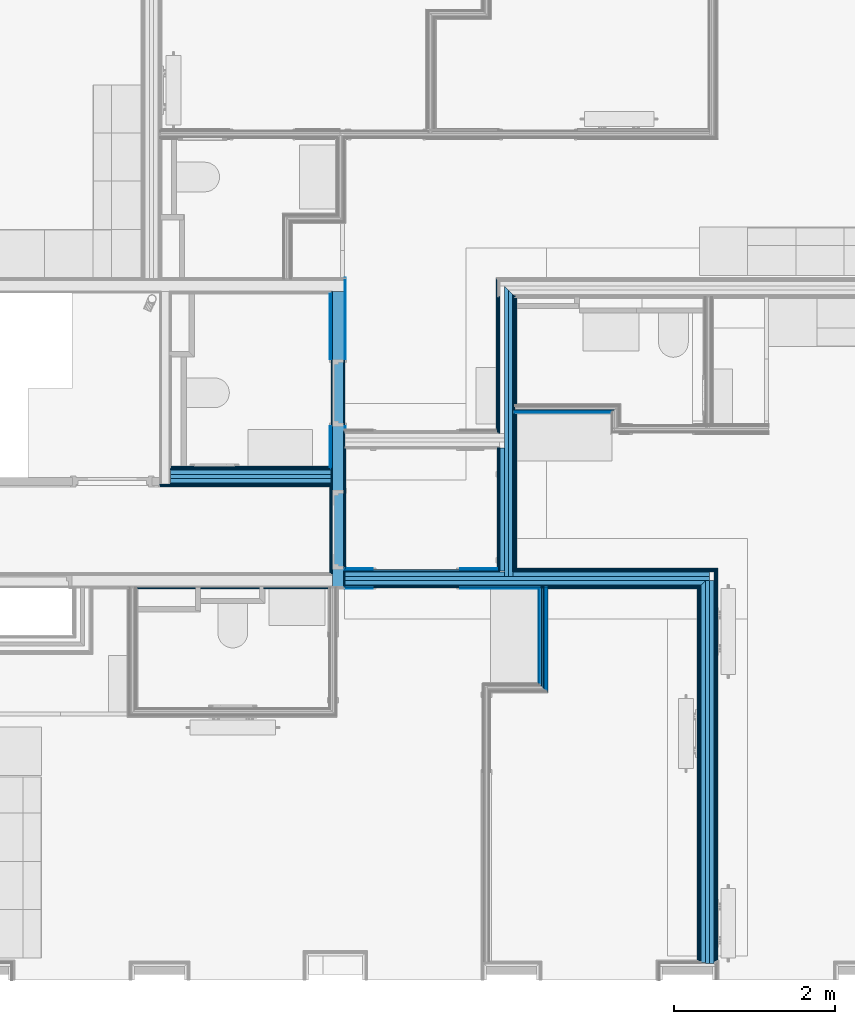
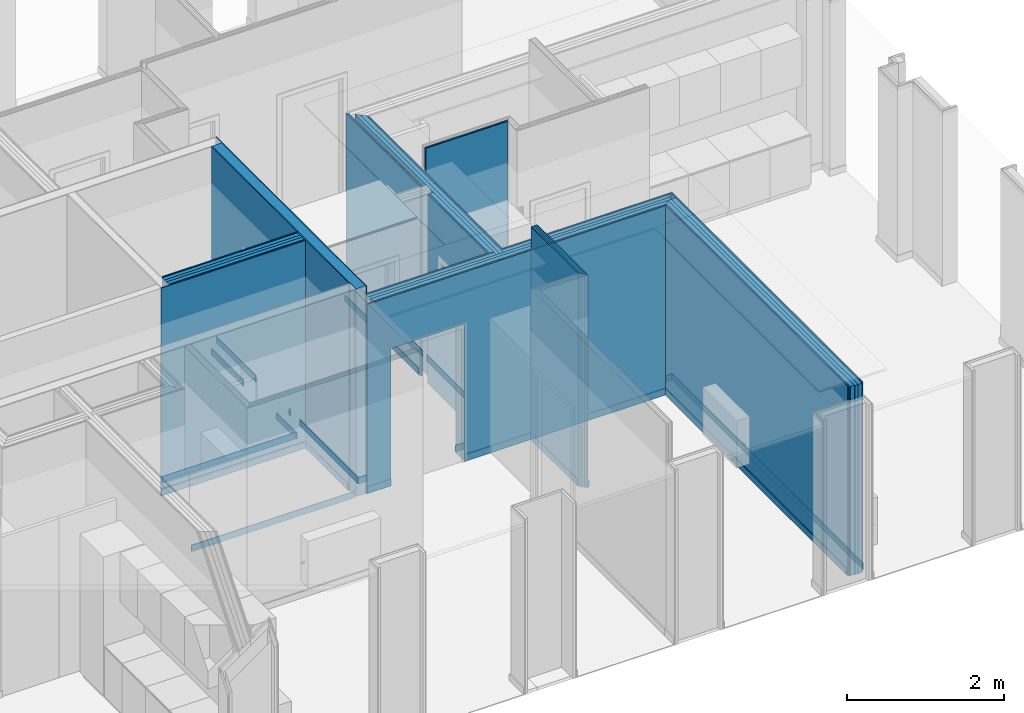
# One storey, part 20 of 64: 65 building element parts, 3 openings, 8 elements without a shape of their own.
"""IFC2X3 building model written with IfcOpenShell, lengths in metres."""

from ifc_helpers import new_model, entity, si_unit, converted_unit, derived_unit, money_unit, direction, frame, frame_2d, origin_with_axes, place, context, subcontext, project, spatial, polyline, rectangle, outline, extrude, material, type_object, element, aggregate, save


model = new_model("IFC2X3")

# Units and contexts
model_context = context("Model", 3, precision=1e-05, world=origin_with_axes(), true_north=direction((0.0, 1.0)))
body_context = subcontext(model_context, "Body", "Model", "MODEL_VIEW", scale=1.0)
ifc_project = project(units=[si_unit("LENGTHUNIT", "METRE"), si_unit("AREAUNIT", "SQUARE_METRE"), si_unit("VOLUMEUNIT", "CUBIC_METRE"), si_unit("ABSORBEDDOSEUNIT", "GRAY"), si_unit("AMOUNTOFSUBSTANCEUNIT", "MOLE"), si_unit("DOSEEQUIVALENTUNIT", "SIEVERT"), si_unit("ELECTRICCAPACITANCEUNIT", "FARAD"), si_unit("ELECTRICCHARGEUNIT", "COULOMB"), si_unit("ELECTRICCONDUCTANCEUNIT", "SIEMENS"), si_unit("ELECTRICCURRENTUNIT", "AMPERE"), si_unit("ELECTRICRESISTANCEUNIT", "OHM"), si_unit("ELECTRICVOLTAGEUNIT", "VOLT"), si_unit("ENERGYUNIT", "JOULE"), si_unit("FORCEUNIT", "NEWTON"), si_unit("FREQUENCYUNIT", "HERTZ"), si_unit("ILLUMINANCEUNIT", "LUX"), si_unit("INDUCTANCEUNIT", "HENRY"), si_unit("LUMINOUSFLUXUNIT", "LUMEN"), si_unit("LUMINOUSINTENSITYUNIT", "CANDELA"), si_unit("MAGNETICFLUXDENSITYUNIT", "TESLA"), si_unit("MAGNETICFLUXUNIT", "WEBER"), si_unit("MASSUNIT", "GRAM"), converted_unit("PLANEANGLEUNIT", "degree", entity("IfcReal", 0.0174532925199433), si_unit("PLANEANGLEUNIT", "RADIAN"), dimensions=[0, 0, 0, 0, 0, 0, 0]), si_unit("POWERUNIT", "WATT"), si_unit("PRESSUREUNIT", "PASCAL"), si_unit("RADIOACTIVITYUNIT", "BECQUEREL"), si_unit("SOLIDANGLEUNIT", "STERADIAN"), si_unit("THERMODYNAMICTEMPERATUREUNIT", "KELVIN"), si_unit("TIMEUNIT", "SECOND"), derived_unit("ACCELERATIONUNIT", [(si_unit("LENGTHUNIT", "METRE"), 1), (si_unit("TIMEUNIT", "SECOND"), -2)]), derived_unit("ANGULARVELOCITYUNIT", [(converted_unit("PLANEANGLEUNIT", "degree", entity("IfcReal", 0.0174532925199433), si_unit("PLANEANGLEUNIT", "RADIAN"), dimensions=[0, 0, 0, 0, 0, 0, 0]), 1), (si_unit("TIMEUNIT", "SECOND"), -1)]), derived_unit("CURVATUREUNIT", [(converted_unit("PLANEANGLEUNIT", "degree", entity("IfcReal", 0.0174532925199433), si_unit("PLANEANGLEUNIT", "RADIAN"), dimensions=[0, 0, 0, 0, 0, 0, 0]), 1), (si_unit("LENGTHUNIT", "METRE"), -1)]), derived_unit("DYNAMICVISCOSITYUNIT", [(si_unit("PRESSUREUNIT", "PASCAL"), 1), (si_unit("TIMEUNIT", "SECOND"), 1)]), derived_unit("HEATFLUXDENSITYUNIT", [(si_unit("POWERUNIT", "WATT"), 1), (si_unit("LENGTHUNIT", "METRE"), -2)]), derived_unit("HEATINGVALUEUNIT", [(si_unit("ENERGYUNIT", "JOULE"), 1), (si_unit("MASSUNIT", "GRAM"), -1)]), derived_unit("INTEGERCOUNTRATEUNIT", [(si_unit("TIMEUNIT", "SECOND"), -1)]), derived_unit("IONCONCENTRATIONUNIT", [(si_unit("MASSUNIT", "GRAM"), 1), (si_unit("VOLUMEUNIT", "CUBIC_METRE"), -1)]), derived_unit("ISOTHERMALMOISTURECAPACITYUNIT", [(si_unit("VOLUMEUNIT", "CUBIC_METRE"), 1), (si_unit("MASSUNIT", "GRAM"), -1)]), derived_unit("KINEMATICVISCOSITYUNIT", [(si_unit("AREAUNIT", "SQUARE_METRE"), 1), (si_unit("TIMEUNIT", "SECOND"), -1)]), derived_unit("LINEARFORCEUNIT", [(si_unit("FORCEUNIT", "NEWTON"), 1), (si_unit("LENGTHUNIT", "METRE"), -1)]), derived_unit("LINEARMOMENTUNIT", [(si_unit("FORCEUNIT", "NEWTON"), 1), (si_unit("LENGTHUNIT", "METRE"), -1)]), derived_unit("LINEARSTIFFNESSUNIT", [(si_unit("FORCEUNIT", "NEWTON"), 1), (si_unit("LENGTHUNIT", "METRE"), -1)]), derived_unit("LINEARVELOCITYUNIT", [(si_unit("LENGTHUNIT", "METRE"), 1), (si_unit("TIMEUNIT", "SECOND"), -1)]), derived_unit("LUMINOUSINTENSITYDISTRIBUTIONUNIT", [(si_unit("LUMINOUSINTENSITYUNIT", "CANDELA"), 1), (si_unit("LUMINOUSFLUXUNIT", "LUMEN"), -1)]), derived_unit("MASSDENSITYUNIT", [(si_unit("MASSUNIT", "GRAM"), 1), (si_unit("VOLUMEUNIT", "CUBIC_METRE"), -1)]), derived_unit("MASSFLOWRATEUNIT", [(si_unit("MASSUNIT", "GRAM"), 1), (si_unit("TIMEUNIT", "SECOND"), -1)]), derived_unit("MASSPERLENGTHUNIT", [(si_unit("MASSUNIT", "GRAM"), 1), (si_unit("LENGTHUNIT", "METRE"), -1)]), derived_unit("MODULUSOFELASTICITYUNIT", [(si_unit("FORCEUNIT", "NEWTON"), 1), (si_unit("AREAUNIT", "SQUARE_METRE"), -1)]), derived_unit("MODULUSOFLINEARSUBGRADEREACTIONUNIT", [(si_unit("FORCEUNIT", "NEWTON"), 1), (si_unit("LENGTHUNIT", "METRE"), -2)]), derived_unit("MODULUSOFROTATIONALSUBGRADEREACTIONUNIT", [(si_unit("FORCEUNIT", "NEWTON"), 1), (si_unit("LENGTHUNIT", "METRE"), 1)]), derived_unit("MODULUSOFSUBGRADEREACTIONUNIT", [(si_unit("FORCEUNIT", "NEWTON"), 1), (si_unit("VOLUMEUNIT", "CUBIC_METRE"), -1)]), derived_unit("MOISTUREDIFFUSIVITYUNIT", [(si_unit("VOLUMEUNIT", "CUBIC_METRE"), 1), (si_unit("TIMEUNIT", "SECOND"), -1)]), derived_unit("MOLECULARWEIGHTUNIT", [(si_unit("MASSUNIT", "GRAM"), 1), (si_unit("AMOUNTOFSUBSTANCEUNIT", "MOLE"), -1)]), derived_unit("PLANARFORCEUNIT", [(si_unit("FORCEUNIT", "NEWTON"), 1), (si_unit("LENGTHUNIT", "METRE"), -2)]), derived_unit("ROTATIONALFREQUENCYUNIT", [(si_unit("TIMEUNIT", "SECOND"), -1)]), derived_unit("ROTATIONALMASSUNIT", [(si_unit("MASSUNIT", "GRAM"), 1), (si_unit("LENGTHUNIT", "METRE"), 2)]), derived_unit("ROTATIONALSTIFFNESSUNIT", [(si_unit("FORCEUNIT", "NEWTON"), 1), (si_unit("LENGTHUNIT", "METRE"), 1), (converted_unit("PLANEANGLEUNIT", "degree", entity("IfcReal", 0.0174532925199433), si_unit("PLANEANGLEUNIT", "RADIAN"), dimensions=[0, 0, 0, 0, 0, 0, 0]), -1)]), derived_unit("SECTIONAREAINTEGRALUNIT", [(si_unit("LENGTHUNIT", "METRE"), 5)]), derived_unit("SECTIONMODULUSUNIT", [(si_unit("LENGTHUNIT", "METRE"), 3)]), derived_unit("SHEARMODULUSUNIT", [(si_unit("FORCEUNIT", "NEWTON"), 1), (si_unit("AREAUNIT", "SQUARE_METRE"), -1)]), derived_unit("SOUNDPOWERUNIT", [(si_unit("ENERGYUNIT", "JOULE"), 1), (si_unit("TIMEUNIT", "SECOND"), -1)]), derived_unit("SPECIFICHEATCAPACITYUNIT", [(si_unit("FORCEUNIT", "NEWTON"), 1), (si_unit("MASSUNIT", "GRAM"), -1), (si_unit("THERMODYNAMICTEMPERATUREUNIT", "KELVIN"), -1)]), derived_unit("TEMPERATUREGRADIENTUNIT", [(si_unit("THERMODYNAMICTEMPERATUREUNIT", "KELVIN"), 1), (si_unit("LENGTHUNIT", "METRE"), -1)]), derived_unit("THERMALADMITTANCEUNIT", [(si_unit("POWERUNIT", "WATT"), 1), (si_unit("AREAUNIT", "SQUARE_METRE"), -1), (si_unit("THERMODYNAMICTEMPERATUREUNIT", "KELVIN"), -1)]), derived_unit("THERMALCONDUCTANCEUNIT", [(si_unit("POWERUNIT", "WATT"), 1), (si_unit("LENGTHUNIT", "METRE"), -1), (si_unit("THERMODYNAMICTEMPERATUREUNIT", "KELVIN"), -1)]), derived_unit("THERMALEXPANSIONCOEFFICIENTUNIT", [(si_unit("THERMODYNAMICTEMPERATUREUNIT", "KELVIN"), -1)]), derived_unit("THERMALRESISTANCEUNIT", [(si_unit("AREAUNIT", "SQUARE_METRE"), 1), (si_unit("POWERUNIT", "WATT"), -1)]), derived_unit("THERMALTRANSMITTANCEUNIT", [(si_unit("POWERUNIT", "WATT"), 1), (si_unit("AREAUNIT", "SQUARE_METRE"), -1), (si_unit("THERMODYNAMICTEMPERATUREUNIT", "KELVIN"), -1)]), derived_unit("TORQUEUNIT", [(si_unit("FORCEUNIT", "NEWTON"), 1), (si_unit("LENGTHUNIT", "METRE"), 1)]), derived_unit("VAPORPERMEABILITYUNIT", [(si_unit("MASSUNIT", "GRAM"), 1), (si_unit("TIMEUNIT", "SECOND"), -1)]), derived_unit("VOLUMETRICFLOWRATEUNIT", [(si_unit("VOLUMEUNIT", "CUBIC_METRE"), 1), (si_unit("TIMEUNIT", "SECOND"), -1)]), derived_unit("WARPINGCONSTANTUNIT", [(si_unit("LENGTHUNIT", "METRE"), 6)]), derived_unit("WARPINGMOMENTUNIT", [(si_unit("FORCEUNIT", "NEWTON"), 1), (si_unit("LENGTHUNIT", "METRE"), 2)]), money_unit("GBP")], contexts=[model_context])

# Site, building, storey
site_placement = place(None, origin_with_axes())
site = spatial("IfcSite", under=ifc_project, at=site_placement, Name="Site", CompositionType="ELEMENT")
building_placement = place(site_placement, origin_with_axes())
building = spatial("IfcBuilding", under=site, at=building_placement, Name="Building01", CompositionType="ELEMENT")
storey_placement = place(building_placement, frame((0.0, 0.0, 8.64), z_axis=(0.0, 0.0, 1.0), x_axis=(1.0, 0.0, 0.0)))
storey = spatial("IfcBuildingStorey", under=building, at=storey_placement, Name="2F", CompositionType="ELEMENT", Elevation=8.64)

# Wall, building element parts
wall_type_1 = type_object("IfcWallType", Name="SHE_A-Walls_Type01c_Partywall_225mm_twin_tall", PredefinedType="NOTDEFINED")
wall_1_placement = place(storey_placement, frame((22.488, 5.068, 0.0), z_axis=(0.0, 0.0, 1.0), x_axis=(0.0, -1.0, 0.0)))
wall_1 = element("IfcWall", 1, at=wall_1_placement, inside=storey, type_object=wall_type_1, Name="1C", ObjectType="SHE_A-Walls_Type01c_Partywall_225mm_twin_tall")
ifc_material_1 = material(Name="A_BSUK_Walls_Timber")
placement_1 = place(wall_1_placement, origin_with_axes())
building_element_part_1 = element("IfcBuildingElementPart", 2, at=placement_1, material=ifc_material_1, Name="1", context=body_context, shape_type="SweptSolid", body=[
    extrude(outline(polyline([(4.72, -0.088), (0.088, -0.088), (0.103, -0.103), (4.72, -0.103), (4.72, -0.088)])), frame((0.0, 0.0, 0.015), z_axis=(0.0, 0.0, 1.0), x_axis=(1.0, 0.0, 0.0)), (0.0, 0.0, 1.0), 0.1),
])
ifc_material_2 = material(Name="A_BSUK_WallInternal_Finishes_Plasterboard")
building_element_part_2 = element("IfcBuildingElementPart", 3, at=placement_1, material=ifc_material_2, Name="2", context=body_context, shape_type="SweptSolid", body=[
    extrude(outline(polyline([(4.735, -0.073), (0.073, -0.073), (0.088, -0.088), (4.735, -0.088), (4.735, -0.073)])), origin_with_axes(), (0.0, 0.0, 1.0), 2.95),
])
building_element_part_3 = element("IfcBuildingElementPart", 4, at=placement_1, material=ifc_material_2, Name="3", context=body_context, shape_type="SweptSolid", body=[
    extrude(outline(polyline([(4.75, -0.058), (0.058, -0.058), (0.073, -0.073), (4.75, -0.073), (4.75, -0.058)])), origin_with_axes(), (0.0, 0.0, 1.0), 2.95),
])
ifc_material_3 = material(Name="Air Cavity")
building_element_part_4 = element("IfcBuildingElementPart", 5, at=placement_1, material=ifc_material_3, Name="4", context=body_context, shape_type="SweptSolid", body=[
    extrude(outline(polyline([(4.75, 0.0), (0.0, 0.0), (0.058, -0.058), (4.75, -0.058), (4.75, 0.0)])), origin_with_axes(), (0.0, 0.0, 1.0), 2.95),
])
ifc_material_4 = material(Name="A_BSUK_Insulation")
building_element_part_5 = element("IfcBuildingElementPart", 6, at=placement_1, material=ifc_material_4, Name="5", context=body_context, shape_type="SweptSolid", body=[
    extrude(rectangle(XDim=4.762, YDim=0.05, at=frame_2d((2.381, 0.025), x_axis=(-1.0, 0.0))), origin_with_axes(), (0.0, 0.0, 1.0), 2.95),
])
building_element_part_6 = element("IfcBuildingElementPart", 7, at=placement_1, material=ifc_material_3, Name="6", context=body_context, shape_type="SweptSolid", body=[
    extrude(rectangle(XDim=4.762, YDim=0.057, at=frame_2d((2.381, 0.0785), x_axis=(-1.0, 0.0))), origin_with_axes(), (0.0, 0.0, 1.0), 2.95),
])
building_element_part_7 = element("IfcBuildingElementPart", 8, at=placement_1, material=ifc_material_2, Name="7", context=body_context, shape_type="SweptSolid", body=[
    extrude(outline(polyline([(4.75, 0.122), (-0.122, 0.122), (-0.107, 0.107), (4.75, 0.107), (4.75, 0.122)])), origin_with_axes(), (0.0, 0.0, 1.0), 2.95),
])
building_element_part_8 = element("IfcBuildingElementPart", 9, at=placement_1, material=ifc_material_2, Name="8", context=body_context, shape_type="SweptSolid", body=[
    extrude(outline(polyline([(-0.137, 0.137), (-0.122, 0.122), (4.735, 0.122), (4.735, 0.137), (-0.137, 0.137)])), origin_with_axes(), (0.0, 0.0, 1.0), 2.95),
])
building_element_part_9 = element("IfcBuildingElementPart", 10, at=placement_1, material=ifc_material_1, Name="9", context=body_context, shape_type="SweptSolid", body=[
    extrude(outline(polyline([(-0.152, 0.152), (-0.137, 0.137), (4.72, 0.137), (4.72, 0.152), (-0.152, 0.152)])), frame((0.0, 0.0, 0.015), z_axis=(0.0, 0.0, 1.0), x_axis=(1.0, 0.0, 0.0)), (0.0, 0.0, 1.0), 0.1),
])
aggregate(wall_1, [building_element_part_1, building_element_part_2, building_element_part_3, building_element_part_4, building_element_part_5, building_element_part_6, building_element_part_7, building_element_part_8, building_element_part_9])

# Wall, openings, building element parts
wall_2_placement = place(storey_placement, frame((18.0, 5.068, 0.0), z_axis=(0.0, 0.0, 1.0), x_axis=(1.0, 0.0, 0.0)))
wall_2 = element("IfcWall", 11, at=wall_2_placement, inside=storey, type_object=wall_type_1, Name="1C", ObjectType="SHE_A-Walls_Type01c_Partywall_225mm_twin_tall")
opening_1_placement = place(wall_2_placement, frame((0.353, 0.152, -0.03), z_axis=(0.0, 0.0, 1.0), x_axis=(1.0, 0.0, 0.0)))
element("IfcOpeningElement", 12, at=opening_1_placement, cuts=wall_2, Name="Opening", ObjectType="Opening", context=body_context, shape_type="SweptSolid", body=[
    extrude(rectangle(XDim=2.142, YDim=1.084, at=frame_2d((0.542, 1.071), x_axis=(0.0, -1.0))), frame((0.0, 0.0, 0.0), z_axis=(0.0, -1.0, 0.0), x_axis=(1.0, 0.0, 0.0)), (0.0, 0.0, 1.0), 0.255),
])
opening_2_placement = place(wall_2_placement, frame((0.35, 0.152, 0.0), z_axis=(0.0, 0.0, 1.0), x_axis=(1.0, 0.0, 0.0)))
element("IfcOpeningElement", 13, at=opening_2_placement, cuts=wall_2, Name="Opening", ObjectType="Opening", context=body_context, shape_type="SweptSolid", body=[
    extrude(rectangle(XDim=2.142, YDim=1.084, at=frame_2d((0.542, 1.071), x_axis=(0.0, -1.0))), frame((0.0, 0.0, 0.0), z_axis=(0.0, -1.0, 0.0), x_axis=(1.0, 0.0, 0.0)), (0.0, 0.0, 1.0), 0.255),
])
placement_2 = place(wall_2_placement, origin_with_axes())
building_element_part_10 = element("IfcBuildingElementPart", 14, at=placement_2, material=ifc_material_1, Name="1", context=body_context, shape_type="SweptSolid", body=[
    extrude(rectangle(XDim=2.415, YDim=0.015, at=frame_2d((1.2075, -0.0955), x_axis=(-1.0, 0.0))), frame((0.0, 0.0, 0.015), z_axis=(0.0, 0.0, 1.0), x_axis=(1.0, 0.0, 0.0)), (0.0, 0.0, 1.0), 0.1),
])
building_element_part_11 = element("IfcBuildingElementPart", 15, at=placement_2, material=ifc_material_1, Name="2", context=body_context, shape_type="SweptSolid", body=[
    extrude(outline(polyline([(4.4, -0.088), (2.51, -0.088), (2.51, -0.103), (4.385, -0.103), (4.4, -0.088)])), frame((0.0, 0.0, 0.015), z_axis=(0.0, 0.0, 1.0), x_axis=(1.0, 0.0, 0.0)), (0.0, 0.0, 1.0), 0.1),
])
building_element_part_12 = element("IfcBuildingElementPart", 16, at=placement_2, material=ifc_material_2, Name="3", context=body_context, shape_type="SweptSolid", body=[
    extrude(outline(polyline([(4.415, -0.073), (0.0, -0.073), (0.0, -0.088), (4.4, -0.088), (4.415, -0.073)])), origin_with_axes(), (0.0, 0.0, 1.0), 2.95),
])
building_element_part_13 = element("IfcBuildingElementPart", 17, at=placement_2, material=ifc_material_2, Name="4", context=body_context, shape_type="SweptSolid", body=[
    extrude(outline(polyline([(4.415, -0.073), (0.0, -0.073), (0.0, -0.088), (4.4, -0.088), (4.415, -0.073)])), origin_with_axes(), (0.0, 0.0, 1.0), 2.95),
])
building_element_part_14 = element("IfcBuildingElementPart", 18, at=placement_2, material=ifc_material_2, Name="5", context=body_context, shape_type="SweptSolid", body=[
    extrude(outline(polyline([(4.43, -0.058), (0.0, -0.058), (0.0, -0.073), (4.415, -0.073), (4.43, -0.058)])), origin_with_axes(), (0.0, 0.0, 1.0), 2.95),
])
building_element_part_15 = element("IfcBuildingElementPart", 19, at=placement_2, material=ifc_material_3, Name="6", context=body_context, shape_type="SweptSolid", body=[
    extrude(outline(polyline([(4.488, 0.0), (0.0, 0.0), (0.0, -0.058), (4.43, -0.058), (4.488, 0.0)])), origin_with_axes(), (0.0, 0.0, 1.0), 2.95),
])
building_element_part_16 = element("IfcBuildingElementPart", 20, at=placement_2, material=ifc_material_4, Name="7", context=body_context, shape_type="SweptSolid", body=[
    extrude(rectangle(XDim=4.538, YDim=0.05, at=frame_2d((2.269, 0.025), x_axis=(-1.0, 0.0))), origin_with_axes(), (0.0, 0.0, 1.0), 2.95),
])
building_element_part_17 = element("IfcBuildingElementPart", 21, at=placement_2, material=ifc_material_3, Name="8", context=body_context, shape_type="SweptSolid", body=[
    extrude(rectangle(XDim=4.538, YDim=0.057, at=frame_2d((2.269, 0.0785), x_axis=(-1.0, 0.0))), origin_with_axes(), (0.0, 0.0, 1.0), 2.95),
])
building_element_part_18 = element("IfcBuildingElementPart", 22, at=placement_2, material=ifc_material_2, Name="9", context=body_context, shape_type="SweptSolid", body=[
    extrude(rectangle(XDim=1.927661, YDim=0.015, at=frame_2d((0.963831, 0.1145), x_axis=(-1.0, 0.0))), origin_with_axes(), (0.0, 0.0, 1.0), 2.95),
])
building_element_part_19 = element("IfcBuildingElementPart", 23, at=placement_2, material=ifc_material_2, Name="10", context=body_context, shape_type="SweptSolid", body=[
    extrude(outline(polyline([(4.61, 0.122), (2.107661, 0.122), (2.107661, 0.107), (4.595, 0.107), (4.61, 0.122)])), origin_with_axes(), (0.0, 0.0, 1.0), 2.95),
])
building_element_part_20 = element("IfcBuildingElementPart", 24, at=placement_2, material=ifc_material_2, Name="11", context=body_context, shape_type="SweptSolid", body=[
    extrude(rectangle(XDim=1.912661, YDim=0.015, at=frame_2d((0.956331, 0.1295), x_axis=(-1.0, 0.0))), origin_with_axes(), (0.0, 0.0, 1.0), 2.95),
])
building_element_part_21 = element("IfcBuildingElementPart", 25, at=placement_2, material=ifc_material_2, Name="12", context=body_context, shape_type="SweptSolid", body=[
    extrude(outline(polyline([(4.625, 0.137), (2.107661, 0.137), (2.107661, 0.122), (4.61, 0.122), (4.625, 0.137)])), origin_with_axes(), (0.0, 0.0, 1.0), 2.95),
])
building_element_part_22 = element("IfcBuildingElementPart", 26, at=placement_2, material=ifc_material_1, Name="13", context=body_context, shape_type="SweptSolid", body=[
    extrude(outline(polyline([(1.897661, 0.152), (0.015, 0.152), (0.0, 0.137), (1.897661, 0.137), (1.897661, 0.152)])), frame((0.0, 0.0, 0.015), z_axis=(0.0, 0.0, 1.0), x_axis=(1.0, 0.0, 0.0)), (0.0, 0.0, 1.0), 0.1),
])
building_element_part_23 = element("IfcBuildingElementPart", 27, at=placement_2, material=ifc_material_1, Name="14", context=body_context, shape_type="SweptSolid", body=[
    extrude(outline(polyline([(4.64, 0.152), (2.137661, 0.152), (2.137661, 0.137), (4.625, 0.137), (4.64, 0.152)])), frame((0.0, 0.0, 0.015), z_axis=(0.0, 0.0, 1.0), x_axis=(1.0, 0.0, 0.0)), (0.0, 0.0, 1.0), 0.1),
])
aggregate(wall_2, [building_element_part_10, building_element_part_11, building_element_part_12, building_element_part_13, building_element_part_14, building_element_part_15, building_element_part_16, building_element_part_17, building_element_part_18, building_element_part_19, building_element_part_20, building_element_part_21, building_element_part_22, building_element_part_23])

# Wall, building element parts
wall_3_placement = place(storey_placement, frame((17.83, 6.337, 0.0), z_axis=(0.0, 0.0, 1.0), x_axis=(-1.0, 0.0, 0.0)))
wall_3 = element("IfcWall", 28, at=wall_3_placement, inside=storey, type_object=wall_type_1, Name="1C", ObjectType="SHE_A-Walls_Type01c_Partywall_225mm_twin_tall")
placement_3 = place(wall_3_placement, origin_with_axes())
building_element_part_24 = element("IfcBuildingElementPart", 29, at=placement_3, material=ifc_material_1, Name="1", context=body_context, shape_type="SweptSolid", body=[
    extrude(rectangle(XDim=1.97, YDim=0.015, at=frame_2d((1.0, -0.1455), x_axis=(-1.0, 0.0))), frame((0.0, 0.0, 0.015), z_axis=(0.0, 0.0, 1.0), x_axis=(1.0, 0.0, 0.0)), (0.0, 0.0, 1.0), 0.1),
])
building_element_part_25 = element("IfcBuildingElementPart", 30, at=placement_3, material=ifc_material_2, Name="2", context=body_context, shape_type="SweptSolid", body=[
    extrude(outline(polyline([(2.0, -0.123), (-0.015, -0.123), (-0.015, -0.138), (1.985, -0.138), (2.0, -0.123)])), origin_with_axes(), (0.0, 0.0, 1.0), 3.24),
])
building_element_part_26 = element("IfcBuildingElementPart", 31, at=placement_3, material=ifc_material_2, Name="3", context=body_context, shape_type="SweptSolid", body=[
    extrude(rectangle(XDim=2.0, YDim=0.015, at=frame_2d((1.0, -0.1155), x_axis=(-1.0, 0.0))), origin_with_axes(), (0.0, 0.0, 1.0), 3.24),
])
building_element_part_27 = element("IfcBuildingElementPart", 32, at=placement_3, material=ifc_material_3, Name="4", context=body_context, shape_type="SweptSolid", body=[
    extrude(rectangle(XDim=2.0, YDim=0.058, at=frame_2d((1.0, -0.079), x_axis=(-1.0, 0.0))), origin_with_axes(), (0.0, 0.0, 1.0), 3.24),
])
building_element_part_28 = element("IfcBuildingElementPart", 33, at=placement_3, material=ifc_material_4, Name="5", context=body_context, shape_type="SweptSolid", body=[
    extrude(rectangle(XDim=2.0, YDim=0.05, at=frame_2d((1.0, -0.025), x_axis=(-1.0, 0.0))), origin_with_axes(), (0.0, 0.0, 1.0), 3.24),
])
building_element_part_29 = element("IfcBuildingElementPart", 34, at=placement_3, material=ifc_material_3, Name="6", context=body_context, shape_type="SweptSolid", body=[
    extrude(rectangle(XDim=2.0, YDim=0.057, at=frame_2d((1.0, 0.0285), x_axis=(-1.0, 0.0))), origin_with_axes(), (0.0, 0.0, 1.0), 3.24),
])
building_element_part_30 = element("IfcBuildingElementPart", 35, at=placement_3, material=ifc_material_2, Name="7", context=body_context, shape_type="SweptSolid", body=[
    extrude(rectangle(XDim=2.0, YDim=0.015, at=frame_2d((1.0, 0.0645), x_axis=(-1.0, 0.0))), origin_with_axes(), (0.0, 0.0, 1.0), 3.24),
])
building_element_part_31 = element("IfcBuildingElementPart", 36, at=placement_3, material=ifc_material_2, Name="8", context=body_context, shape_type="SweptSolid", body=[
    extrude(rectangle(XDim=2.13, YDim=0.015, at=frame_2d((1.065, 0.0795), x_axis=(-1.0, 0.0))), origin_with_axes(), (0.0, 0.0, 1.0), 3.24),
])
building_element_part_32 = element("IfcBuildingElementPart", 37, at=placement_3, material=ifc_material_1, Name="9", context=body_context, shape_type="SweptSolid", body=[
    extrude(rectangle(XDim=2.115, YDim=0.015, at=frame_2d((1.0725, 0.0945), x_axis=(-1.0, 0.0))), frame((0.0, 0.0, 0.015), z_axis=(0.0, 0.0, 1.0), x_axis=(1.0, 0.0, 0.0)), (0.0, 0.0, 1.0), 0.1),
])
aggregate(wall_3, [building_element_part_24, building_element_part_25, building_element_part_26, building_element_part_27, building_element_part_28, building_element_part_29, building_element_part_30, building_element_part_31, building_element_part_32])

# Wall, opening, building element parts
wall_type_2 = type_object("IfcWallType", Name="SHE_A-Walls_Type03a_BlockworkWall_170mm", PredefinedType="NOTDEFINED")
wall_4_placement = place(storey_placement, frame((17.845, 8.665, 0.0), z_axis=(0.0, 0.0, 1.0), x_axis=(0.0, -1.0, 0.0)))
wall_4 = element("IfcWall", 38, at=wall_4_placement, inside=storey, type_object=wall_type_2, Name="4B", ObjectType="SHE_A-Walls_Type03a_BlockworkWall_170mm")
opening_3_placement = place(wall_4_placement, frame((0.84412, 0.17, 0.0), z_axis=(0.0, 0.0, 1.0), x_axis=(1.0, 0.0, 0.0)))
element("IfcOpeningElement", 39, at=opening_3_placement, cuts=wall_4, Name="Opening", ObjectType="Opening", context=body_context, shape_type="SweptSolid", body=[
    extrude(rectangle(XDim=2.142, YDim=0.834, at=frame_2d((0.417, 1.071), x_axis=(0.0, -1.0))), frame((0.0, 0.0, 0.0), z_axis=(0.0, -1.0, 0.0), x_axis=(1.0, 0.0, 0.0)), (0.0, 0.0, 1.0), 0.2),
])
placement_4 = place(wall_4_placement, origin_with_axes())
building_element_part_33 = element("IfcBuildingElementPart", 40, at=placement_4, material=ifc_material_1, Name="1", context=body_context, shape_type="SweptSolid", body=[
    extrude(outline(polyline([(2.205, -0.015), (0.03, -0.015), (0.03, -0.03), (2.19, -0.03), (2.205, -0.015)])), frame((0.0, 0.0, 0.015), z_axis=(0.0, 0.0, 1.0), x_axis=(1.0, 0.0, 0.0)), (0.0, 0.0, 1.0), 0.1),
])
building_element_part_34 = element("IfcBuildingElementPart", 41, at=placement_4, material=ifc_material_1, Name="2", context=body_context, shape_type="SweptSolid", body=[
    extrude(rectangle(XDim=1.085, YDim=0.015, at=frame_2d((2.9575, -0.0225), x_axis=(-1.0, 0.0))), frame((0.0, 0.0, 0.015), z_axis=(0.0, 0.0, 1.0), x_axis=(1.0, 0.0, 0.0)), (0.0, 0.0, 1.0), 0.1),
])
building_element_part_35 = element("IfcBuildingElementPart", 42, at=placement_4, material=ifc_material_2, Name="3", context=body_context, shape_type="SweptSolid", body=[
    extrude(outline(polyline([(2.205, 0.0), (0.0, 0.0), (0.0, -0.015), (2.19, -0.015), (2.205, 0.0)])), origin_with_axes(), (0.0, 0.0, 1.0), 3.24),
])
building_element_part_36 = element("IfcBuildingElementPart", 43, at=placement_4, material=ifc_material_2, Name="4", context=body_context, shape_type="SweptSolid", body=[
    extrude(outline(polyline([(3.515, 0.0), (2.19, 0.0), (2.205, -0.015), (3.515, -0.015), (3.515, 0.0)])), origin_with_axes(), (0.0, 0.0, 1.0), 3.24),
])
ifc_material_5 = material(Name="A_BSUK_WallsInternal_Block")
building_element_part_37 = element("IfcBuildingElementPart", 44, at=placement_4, material=ifc_material_5, Name="5", context=body_context, shape_type="SweptSolid", body=[
    extrude(rectangle(XDim=3.67, YDim=0.14, at=frame_2d((1.835, 0.07), x_axis=(-1.0, 0.0))), origin_with_axes(), (0.0, 0.0, 1.0), 3.24),
])
ifc_material_6 = material(Name="A_BSUK_WallInternal_Finishes_Plaster")
building_element_part_38 = element("IfcBuildingElementPart", 45, at=placement_4, material=ifc_material_6, Name="6", context=body_context, shape_type="SweptSolid", body=[
    extrude(rectangle(XDim=3.84, YDim=0.015, at=frame_2d((1.765, 0.1475), x_axis=(-1.0, 0.0))), origin_with_axes(), (0.0, 0.0, 1.0), 3.24),
])
building_element_part_39 = element("IfcBuildingElementPart", 46, at=placement_4, material=ifc_material_1, Name="7", context=body_context, shape_type="SweptSolid", body=[
    extrude(rectangle(XDim=1.89, YDim=0.015, at=frame_2d((0.775, 0.1625), x_axis=(-1.0, 0.0))), frame((0.0, 0.0, 0.015), z_axis=(0.0, 0.0, 1.0), x_axis=(1.0, 0.0, 0.0)), (0.0, 0.0, 1.0), 0.1),
])
building_element_part_40 = element("IfcBuildingElementPart", 47, at=placement_4, material=ifc_material_1, Name="8", context=body_context, shape_type="SweptSolid", body=[
    extrude(outline(polyline([(3.445, 0.17), (1.975, 0.17), (1.975, 0.155), (3.46, 0.155), (3.445, 0.17)])), frame((0.0, 0.0, 0.015), z_axis=(0.0, 0.0, 1.0), x_axis=(1.0, 0.0, 0.0)), (0.0, 0.0, 1.0), 0.1),
])
building_element_part_41 = element("IfcBuildingElementPart", 48, at=placement_4, material=ifc_material_1, Name="9", context=body_context, shape_type="SweptSolid", body=[
    extrude(outline(polyline([(3.445, 0.17), (1.96, 0.17), (1.96, 0.155), (3.46, 0.155), (3.445, 0.17)])), frame((0.0, 0.0, 0.015), z_axis=(0.0, 0.0, 1.0), x_axis=(1.0, 0.0, 0.0)), (0.0, 0.0, 1.0), 0.1),
])
building_element_part_42 = element("IfcBuildingElementPart", 49, at=placement_4, material=ifc_material_1, Name="10", context=body_context, shape_type="SweptSolid", body=[
    extrude(outline(polyline([(3.445, 0.17), (1.96, 0.17), (1.96, 0.155), (3.46, 0.155), (3.445, 0.17)])), frame((0.0, 0.0, 0.015), z_axis=(0.0, 0.0, 1.0), x_axis=(1.0, 0.0, 0.0)), (0.0, 0.0, 1.0), 0.1),
])
aggregate(wall_4, [building_element_part_33, building_element_part_34, building_element_part_35, building_element_part_36, building_element_part_37, building_element_part_38, building_element_part_39, building_element_part_40, building_element_part_41, building_element_part_42])

# Wall, building element parts
wall_5_placement = place(storey_placement, frame((19.985661, 8.732, 0.0), z_axis=(0.0, 0.0, 1.0), x_axis=(0.0, -1.0, 0.0)))
wall_5 = element("IfcWall", 50, at=wall_5_placement, inside=storey, type_object=wall_type_1, Name="1C", ObjectType="SHE_A-Walls_Type01c_Partywall_225mm_twin_tall")
placement_5 = place(wall_5_placement, origin_with_axes())
building_element_part_43 = element("IfcBuildingElementPart", 51, at=placement_5, material=ifc_material_1, Name="1", context=body_context, shape_type="SweptSolid", body=[
    extrude(outline(polyline([(1.787, -0.088), (-0.073, -0.088), (-0.088, -0.103), (1.787, -0.103), (1.787, -0.088)])), frame((0.0, 0.0, 0.015), z_axis=(0.0, 0.0, 1.0), x_axis=(1.0, 0.0, 0.0)), (0.0, 0.0, 1.0), 0.1),
])
building_element_part_44 = element("IfcBuildingElementPart", 52, at=placement_5, material=ifc_material_1, Name="2", context=body_context, shape_type="SweptSolid", body=[
    extrude(outline(polyline([(1.802, -0.088), (-0.073, -0.088), (-0.088, -0.103), (1.802, -0.103), (1.802, -0.088)])), frame((0.0, 0.0, 0.015), z_axis=(0.0, 0.0, 1.0), x_axis=(1.0, 0.0, 0.0)), (0.0, 0.0, 1.0), 0.1),
])
building_element_part_45 = element("IfcBuildingElementPart", 53, at=placement_5, material=ifc_material_2, Name="3", context=body_context, shape_type="SweptSolid", body=[
    extrude(rectangle(XDim=1.89, YDim=0.015, at=frame_2d((0.872, -0.0805), x_axis=(-1.0, 0.0))), origin_with_axes(), (0.0, 0.0, 1.0), 2.95),
])
building_element_part_46 = element("IfcBuildingElementPart", 54, at=placement_5, material=ifc_material_2, Name="5", context=body_context, shape_type="SweptSolid", body=[
    extrude(rectangle(XDim=1.515, YDim=0.015, at=frame_2d((2.7695, -0.0805), x_axis=(-1.0, 0.0))), origin_with_axes(), (0.0, 0.0, 1.0), 2.95),
])
building_element_part_47 = element("IfcBuildingElementPart", 55, at=placement_5, material=ifc_material_2, Name="6", context=body_context, shape_type="SweptSolid", body=[
    extrude(rectangle(XDim=1.89, YDim=0.015, at=frame_2d((0.887, -0.0655), x_axis=(-1.0, 0.0))), origin_with_axes(), (0.0, 0.0, 1.0), 2.95),
])
building_element_part_48 = element("IfcBuildingElementPart", 56, at=placement_5, material=ifc_material_2, Name="8", context=body_context, shape_type="SweptSolid", body=[
    extrude(rectangle(XDim=1.53, YDim=0.015, at=frame_2d((2.777, -0.0655), x_axis=(-1.0, 0.0))), origin_with_axes(), (0.0, 0.0, 1.0), 2.95),
])
building_element_part_49 = element("IfcBuildingElementPart", 57, at=placement_5, material=ifc_material_3, Name="9", context=body_context, shape_type="SweptSolid", body=[
    extrude(rectangle(XDim=1.53, YDim=0.058, at=frame_2d((2.777, -0.029), x_axis=(-1.0, 0.0))), origin_with_axes(), (0.0, 0.0, 1.0), 2.95),
])
building_element_part_50 = element("IfcBuildingElementPart", 58, at=placement_5, material=ifc_material_4, Name="10", context=body_context, shape_type="SweptSolid", body=[
    extrude(outline(polyline([(3.614, 0.05), (0.05, 0.05), (0.0, 0.0), (3.614, 0.0), (3.614, 0.05)])), origin_with_axes(), (0.0, 0.0, 1.0), 2.95),
])
building_element_part_51 = element("IfcBuildingElementPart", 59, at=placement_5, material=ifc_material_3, Name="11", context=body_context, shape_type="SweptSolid", body=[
    extrude(outline(polyline([(3.614, 0.107), (0.107, 0.107), (0.05, 0.05), (3.614, 0.05), (3.614, 0.107)])), origin_with_axes(), (0.0, 0.0, 1.0), 2.95),
])
building_element_part_52 = element("IfcBuildingElementPart", 60, at=placement_5, material=ifc_material_2, Name="12", context=body_context, shape_type="SweptSolid", body=[
    extrude(outline(polyline([(3.557, 0.122), (0.122, 0.122), (0.107, 0.107), (3.557, 0.107), (3.557, 0.122)])), origin_with_axes(), (0.0, 0.0, 1.0), 2.95),
])
building_element_part_53 = element("IfcBuildingElementPart", 61, at=placement_5, material=ifc_material_2, Name="13", context=body_context, shape_type="SweptSolid", body=[
    extrude(rectangle(XDim=3.405, YDim=0.015, at=frame_2d((1.8245, 0.1295), x_axis=(-1.0, 0.0))), origin_with_axes(), (0.0, 0.0, 1.0), 2.95),
])
building_element_part_54 = element("IfcBuildingElementPart", 62, at=placement_5, material=ifc_material_1, Name="14", context=body_context, shape_type="SweptSolid", body=[
    extrude(rectangle(XDim=1.33, YDim=0.015, at=frame_2d((0.817, 0.1445), x_axis=(-1.0, 0.0))), frame((0.0, 0.0, 0.015), z_axis=(0.0, 0.0, 1.0), x_axis=(1.0, 0.0, 0.0)), (0.0, 0.0, 1.0), 0.1),
])
building_element_part_55 = element("IfcBuildingElementPart", 63, at=placement_5, material=ifc_material_1, Name="15", context=body_context, shape_type="SweptSolid", body=[
    extrude(rectangle(XDim=1.935, YDim=0.015, at=frame_2d((2.5595, 0.1445), x_axis=(-1.0, 0.0))), frame((0.0, 0.0, 0.015), z_axis=(0.0, 0.0, 1.0), x_axis=(1.0, 0.0, 0.0)), (0.0, 0.0, 1.0), 0.1),
])
aggregate(wall_5, [building_element_part_43, building_element_part_44, building_element_part_45, building_element_part_46, building_element_part_47, building_element_part_48, building_element_part_49, building_element_part_50, building_element_part_51, building_element_part_52, building_element_part_53, building_element_part_54, building_element_part_55])

wall_type_3 = type_object("IfcWallType", Name="SHE_A-Walls_Type05a_Partition_95mm_tall", PredefinedType="NOTDEFINED")
wall_6_placement = place(storey_placement, frame((21.382661, 7.215, 0.0), z_axis=(0.0, 0.0, 1.0), x_axis=(-1.0, 0.0, 0.0)))
wall_6 = element("IfcWall", 64, at=wall_6_placement, inside=storey, type_object=wall_type_3, Name="5A", ObjectType="SHE_A-Walls_Type05a_Partition_95mm_tall")
placement_6 = place(wall_6_placement, origin_with_axes())
building_element_part_56 = element("IfcBuildingElementPart", 65, at=placement_6, material=ifc_material_3, Name="5", context=body_context, shape_type="SweptSolid", body=[
    extrude(outline(polyline([(1.26, 0.048), (0.048, 0.048), (0.025, 0.025), (1.26, 0.025), (1.26, 0.048)])), origin_with_axes(), (0.0, 0.0, 1.0), 3.32),
])
building_element_part_57 = element("IfcBuildingElementPart", 66, at=placement_6, material=ifc_material_2, Name="6", context=body_context, shape_type="SweptSolid", body=[
    extrude(outline(polyline([(1.26, 0.06), (0.06, 0.06), (0.048, 0.048), (1.26, 0.048), (1.26, 0.06)])), origin_with_axes(), (0.0, 0.0, 1.0), 3.32),
])
aggregate(wall_6, [building_element_part_56, building_element_part_57])

# Wall, building element part
wall_7_placement = place(storey_placement, frame((9.215, 4.995, 0.0), z_axis=(0.0, 0.0, 1.0), x_axis=(1.0, 0.0, 0.0)))
wall_7 = element("IfcWall", 67, at=wall_7_placement, inside=storey, type_object=wall_type_2, Name="4B", ObjectType="SHE_A-Walls_Type03a_BlockworkWall_170mm")
building_element_part_58_placement = place(wall_7_placement, origin_with_axes())
building_element_part_58 = element("IfcBuildingElementPart", 68, at=building_element_part_58_placement, material=ifc_material_1, Name="5", context=body_context, shape_type="SweptSolid", body=[
    extrude(rectangle(XDim=2.4, YDim=0.015, at=frame_2d((7.3925, -0.0225), x_axis=(-1.0, 0.0))), frame((0.0, 0.0, 0.015), z_axis=(0.0, 0.0, 1.0), x_axis=(1.0, 0.0, 0.0)), (0.0, 0.0, 1.0), 0.1),
])
aggregate(wall_7, [building_element_part_58])

# Wall, building element parts
wall_8_placement = place(storey_placement, frame((20.475, 3.72, 0.0), z_axis=(0.0, 0.0, 1.0), x_axis=(0.0, 1.0, 0.0)))
wall_8 = element("IfcWall", 69, at=wall_8_placement, inside=storey, type_object=wall_type_3, Name="5A", ObjectType="SHE_A-Walls_Type05a_Partition_95mm_tall")
placement_7 = place(wall_8_placement, origin_with_axes())
building_element_part_59 = element("IfcBuildingElementPart", 70, at=placement_7, material=ifc_material_1, Name="1", context=body_context, shape_type="SweptSolid", body=[
    extrude(outline(polyline([(1.245, -0.035), (-0.035, -0.035), (-0.05, -0.05), (1.245, -0.05), (1.245, -0.035)])), frame((0.0, 0.0, 0.015), z_axis=(0.0, 0.0, 1.0), x_axis=(1.0, 0.0, 0.0)), (0.0, 0.0, 1.0), 0.1),
])
building_element_part_60 = element("IfcBuildingElementPart", 71, at=placement_7, material=ifc_material_2, Name="2", context=body_context, shape_type="SweptSolid", body=[
    extrude(outline(polyline([(1.26, -0.023), (-0.023, -0.023), (-0.035, -0.035), (1.26, -0.035), (1.26, -0.023)])), origin_with_axes(), (0.0, 0.0, 1.0), 3.32),
])
building_element_part_61 = element("IfcBuildingElementPart", 72, at=placement_7, material=ifc_material_3, Name="3", context=body_context, shape_type="SweptSolid", body=[
    extrude(outline(polyline([(1.26, 0.0), (0.0, 0.0), (-0.023, -0.023), (1.26, -0.023), (1.26, 0.0)])), origin_with_axes(), (0.0, 0.0, 1.0), 3.32),
])
building_element_part_62 = element("IfcBuildingElementPart", 73, at=placement_7, material=ifc_material_4, Name="4", context=body_context, shape_type="SweptSolid", body=[
    extrude(outline(polyline([(1.26, 0.025), (0.025, 0.025), (0.0, 0.0), (1.26, 0.0), (1.26, 0.025)])), origin_with_axes(), (0.0, 0.0, 1.0), 3.32),
])
building_element_part_63 = element("IfcBuildingElementPart", 74, at=placement_7, material=ifc_material_3, Name="5", context=body_context, shape_type="SweptSolid", body=[
    extrude(outline(polyline([(1.26, 0.048), (0.048, 0.048), (0.025, 0.025), (1.26, 0.025), (1.26, 0.048)])), origin_with_axes(), (0.0, 0.0, 1.0), 3.32),
])
building_element_part_64 = element("IfcBuildingElementPart", 75, at=placement_7, material=ifc_material_2, Name="6", context=body_context, shape_type="SweptSolid", body=[
    extrude(outline(polyline([(1.26, 0.06), (0.06, 0.06), (0.048, 0.048), (1.26, 0.048), (1.26, 0.06)])), origin_with_axes(), (0.0, 0.0, 1.0), 3.32),
])
building_element_part_65 = element("IfcBuildingElementPart", 76, at=placement_7, material=ifc_material_1, Name="7", context=body_context, shape_type="SweptSolid", body=[
    extrude(outline(polyline([(1.245, 0.075), (0.075, 0.075), (0.06, 0.06), (1.245, 0.06), (1.245, 0.075)])), frame((0.0, 0.0, 0.015), z_axis=(0.0, 0.0, 1.0), x_axis=(1.0, 0.0, 0.0)), (0.0, 0.0, 1.0), 0.1),
])
aggregate(wall_8, [building_element_part_59, building_element_part_60, building_element_part_61, building_element_part_62, building_element_part_63, building_element_part_64, building_element_part_65])

save(model, "model.ifc")
